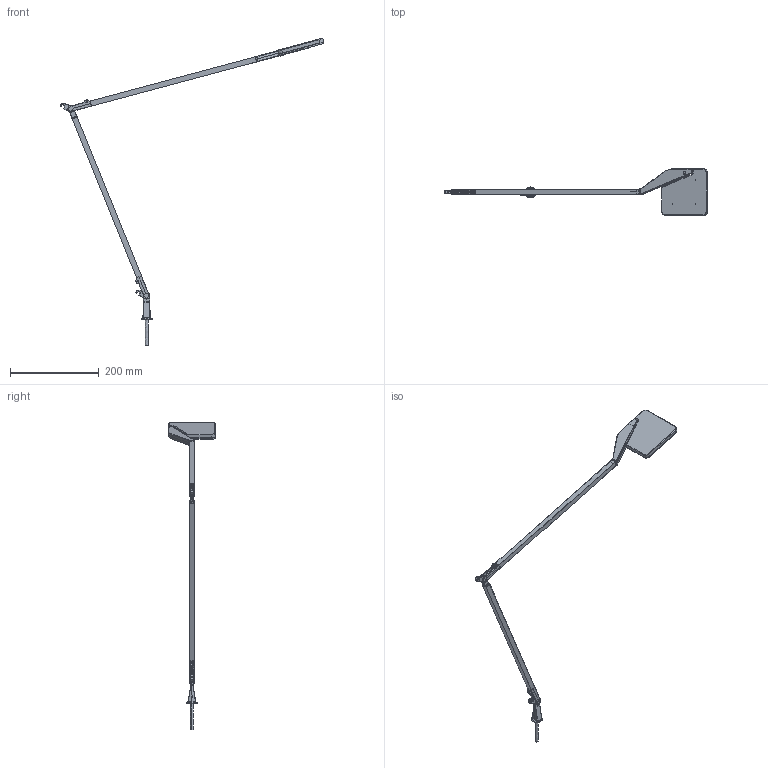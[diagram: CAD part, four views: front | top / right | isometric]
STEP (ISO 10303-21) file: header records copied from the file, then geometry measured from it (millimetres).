
FILE_DESCRIPTION(/* description */ (''),/* implementation_level */ '2;1');
FILE_NAME(/* name */ 'CP077__.000',/* time_stamp */ '2024-09-02T12:27:24+02:00',/* author */ (''),/* organization */ (''),/* preprocessor_version */ 'ST-DEVELOPER v16.5',/* originating_system */ '',/* authorisation */ '');
FILE_SCHEMA (('AUTOMOTIVE_DESIGN'));
Products named in the file (1): Document
Bounding box: 592.94 x 105.43 x 692.03 mm (x, y, z)
Volume: 125815.3 mm3; surface area: 144919.4 mm2
Topology: 32 solids, 39 shells, 2639 faces, 6200 edges, 3753 vertices
Faces by surface type: bspline 1796, plane 843
Entity records: 118085 total; most frequent: CARTESIAN_POINT 80624, ORIENTED_EDGE 12253, EDGE_CURVE 6174, B_SPLINE_CURVE_WITH_KNOTS 4146, VERTEX_POINT 3752, EDGE_LOOP 2849, ADVANCED_FACE 2639, FACE_OUTER_BOUND 2639
